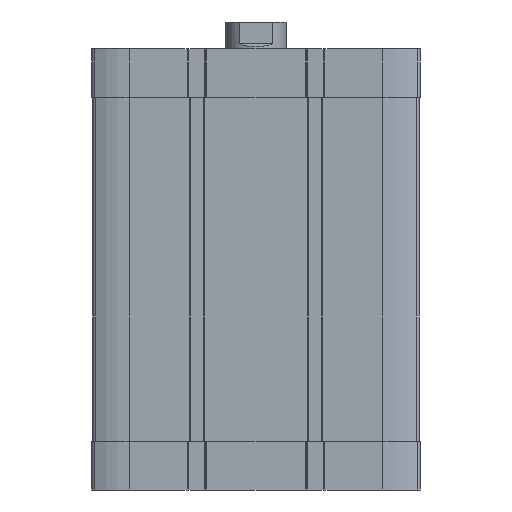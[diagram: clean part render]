
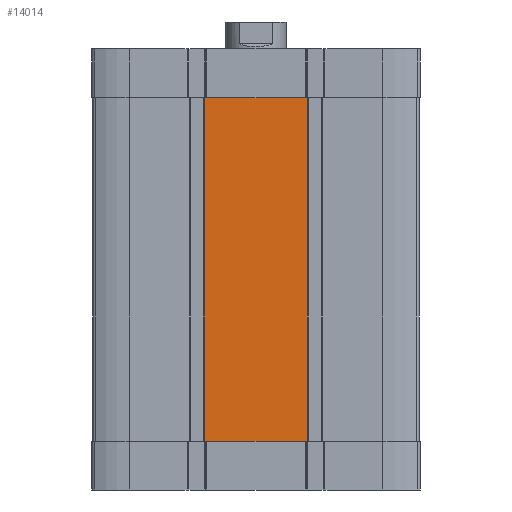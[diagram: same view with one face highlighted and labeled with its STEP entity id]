
A CAD part, front view. The second image highlights one B-rep face of the part: STEP entity #14014.
In plain terms, the highlighted planar face has unit normal (0, -1, 0).
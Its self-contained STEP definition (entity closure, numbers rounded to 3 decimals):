
#43 = EDGE_LOOP ( 'NONE', ( #10963, #1855, #12105, #10425, #4411, #15606, #6471, #10569 ) ) ;
#121 = VERTEX_POINT ( 'NONE', #5481 ) ;
#416 = FACE_OUTER_BOUND ( 'NONE', #43, .T. ) ;
#739 = EDGE_CURVE ( 'NONE', #15021, #1212, #12752, .T. ) ;
#758 = CARTESIAN_POINT ( 'NONE',  ( -67., -67., -20. ) ) ;
#839 = DIRECTION ( 'NONE',  ( 1., 0., 0. ) ) ;
#873 = DIRECTION ( 'NONE',  ( 1., 0., 0. ) ) ;
#1116 = CARTESIAN_POINT ( 'NONE',  ( 20.687, -67., -161. ) ) ;
#1212 = VERTEX_POINT ( 'NONE', #5956 ) ;
#1548 = CARTESIAN_POINT ( 'NONE',  ( -67., -67., -161. ) ) ;
#1781 = CARTESIAN_POINT ( 'NONE',  ( -67., -67., -161. ) ) ;
#1855 = ORIENTED_EDGE ( 'NONE', *, *, #6699, .T. ) ;
#2816 = VECTOR ( 'NONE', #15147, 1000. ) ;
#3170 = AXIS2_PLACEMENT_3D ( 'NONE', #1548, #4412, #8237 ) ;
#3698 = CARTESIAN_POINT ( 'NONE',  ( 20.687, -67., -20. ) ) ;
#3907 = LINE ( 'NONE', #6600, #14732 ) ;
#3951 = DIRECTION ( 'NONE',  ( 0., 0., 1. ) ) ;
#3955 = VECTOR ( 'NONE', #839, 1000. ) ;
#3996 = CARTESIAN_POINT ( 'NONE',  ( -21.3, -67., -20. ) ) ;
#4161 = DIRECTION ( 'NONE',  ( 1., 0., 0. ) ) ;
#4393 = LINE ( 'NONE', #1781, #16483 ) ;
#4411 = ORIENTED_EDGE ( 'NONE', *, *, #10133, .T. ) ;
#4412 = DIRECTION ( 'NONE',  ( 0., -1., 0. ) ) ;
#4421 = CARTESIAN_POINT ( 'NONE',  ( -21.3, -67., -161. ) ) ;
#4438 = LINE ( 'NONE', #8437, #2816 ) ;
#4958 = LINE ( 'NONE', #15491, #10310 ) ;
#5207 = CARTESIAN_POINT ( 'NONE',  ( -21.3, -67., -20. ) ) ;
#5308 = EDGE_CURVE ( 'NONE', #10082, #16229, #16343, .T. ) ;
#5437 = VERTEX_POINT ( 'NONE', #1116 ) ;
#5481 = CARTESIAN_POINT ( 'NONE',  ( -20.687, -67., -161. ) ) ;
#5956 = CARTESIAN_POINT ( 'NONE',  ( -20.687, -67., -20. ) ) ;
#6471 = ORIENTED_EDGE ( 'NONE', *, *, #8914, .F. ) ;
#6600 = CARTESIAN_POINT ( 'NONE',  ( -21.3, -67., -161. ) ) ;
#6699 = EDGE_CURVE ( 'NONE', #11047, #121, #4393, .T. ) ;
#7806 = CARTESIAN_POINT ( 'NONE',  ( 21.3, -67., -161. ) ) ;
#7837 = VECTOR ( 'NONE', #3951, 1000. ) ;
#7944 = LINE ( 'NONE', #13084, #7837 ) ;
#8237 = DIRECTION ( 'NONE',  ( 0., 0., -1. ) ) ;
#8437 = CARTESIAN_POINT ( 'NONE',  ( -21.3, -67., -161. ) ) ;
#8605 = EDGE_CURVE ( 'NONE', #11047, #15021, #4438, .T. ) ;
#8914 = EDGE_CURVE ( 'NONE', #1212, #10082, #15917, .T. ) ;
#9293 = DIRECTION ( 'NONE',  ( 1., 0., 0. ) ) ;
#9771 = DIRECTION ( 'NONE',  ( 1., 0., 0. ) ) ;
#9853 = EDGE_CURVE ( 'NONE', #5437, #13891, #4958, .T. ) ;
#10082 = VERTEX_POINT ( 'NONE', #3698 ) ;
#10133 = EDGE_CURVE ( 'NONE', #13891, #16229, #7944, .T. ) ;
#10157 = DIRECTION ( 'NONE',  ( 1., 0., 0. ) ) ;
#10310 = VECTOR ( 'NONE', #873, 1000. ) ;
#10425 = ORIENTED_EDGE ( 'NONE', *, *, #9853, .T. ) ;
#10569 = ORIENTED_EDGE ( 'NONE', *, *, #739, .F. ) ;
#10842 = CARTESIAN_POINT ( 'NONE',  ( 21.3, -67., -20. ) ) ;
#10963 = ORIENTED_EDGE ( 'NONE', *, *, #8605, .F. ) ;
#11047 = VERTEX_POINT ( 'NONE', #4421 ) ;
#11097 = PLANE ( 'NONE',  #3170 ) ;
#11368 = CARTESIAN_POINT ( 'NONE',  ( -67., -67., -20. ) ) ;
#12105 = ORIENTED_EDGE ( 'NONE', *, *, #16262, .T. ) ;
#12752 = LINE ( 'NONE', #758, #3955 ) ;
#13084 = CARTESIAN_POINT ( 'NONE',  ( 21.3, -67., -161. ) ) ;
#13380 = VECTOR ( 'NONE', #9293, 1000. ) ;
#13891 = VERTEX_POINT ( 'NONE', #7806 ) ;
#14014 = ADVANCED_FACE ( 'NONE', ( #416 ), #11097, .T. ) ;
#14732 = VECTOR ( 'NONE', #4161, 1000. ) ;
#15021 = VERTEX_POINT ( 'NONE', #5207 ) ;
#15147 = DIRECTION ( 'NONE',  ( 0., 0., 1. ) ) ;
#15198 = VECTOR ( 'NONE', #10157, 1000. ) ;
#15491 = CARTESIAN_POINT ( 'NONE',  ( -67., -67., -161. ) ) ;
#15606 = ORIENTED_EDGE ( 'NONE', *, *, #5308, .F. ) ;
#15917 = LINE ( 'NONE', #3996, #13380 ) ;
#16229 = VERTEX_POINT ( 'NONE', #10842 ) ;
#16262 = EDGE_CURVE ( 'NONE', #121, #5437, #3907, .T. ) ;
#16343 = LINE ( 'NONE', #11368, #15198 ) ;
#16483 = VECTOR ( 'NONE', #9771, 1000. ) ;
